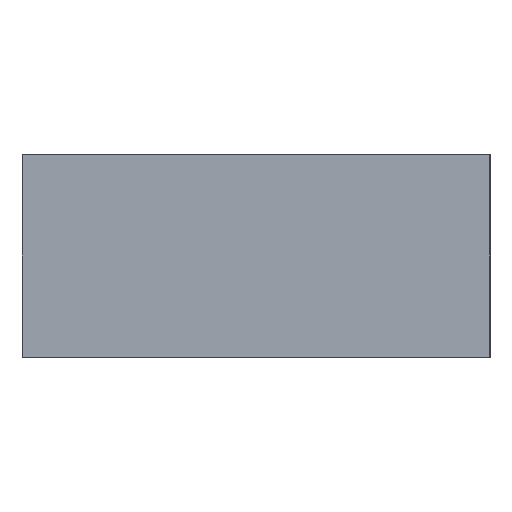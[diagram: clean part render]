
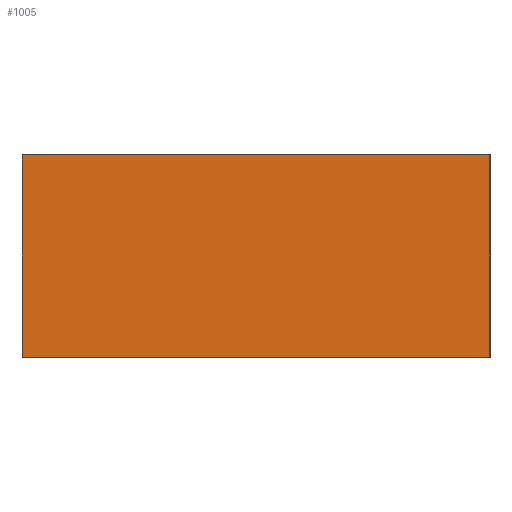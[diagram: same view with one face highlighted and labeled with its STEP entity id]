
A CAD part, front view. The second image highlights one B-rep face of the part: STEP entity #1005.
In plain terms, the highlighted planar face has unit normal (0, -1, 0).
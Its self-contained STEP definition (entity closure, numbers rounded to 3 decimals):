
#949=CARTESIAN_POINT('',(300.0,0.0,65.0));
#950=VERTEX_POINT('',#949);
#958=CARTESIAN_POINT('',(0.0,0.0,65.0));
#959=VERTEX_POINT('',#958);
#966=CARTESIAN_POINT('',(0.0,0.0,65.0));
#967=DIRECTION('',(1.0,0.0,0.0));
#968=VECTOR('',#967,300.0);
#969=LINE('',#966,#968);
#970=EDGE_CURVE('',#959,#950,#969,.T.);
#975=CARTESIAN_POINT('',(0.0,0.0,-65.0));
#976=DIRECTION('',(0.0,-1.0,0.0));
#977=DIRECTION('',(0.0,0.0,-1.0));
#978=AXIS2_PLACEMENT_3D('',#975,#976,#977);
#979=PLANE('',#978);
#980=CARTESIAN_POINT('',(300.0,0.0,-65.0));
#981=VERTEX_POINT('',#980);
#982=CARTESIAN_POINT('',(300.0,0.0,-65.0));
#983=DIRECTION('',(0.0,0.0,1.0));
#984=VECTOR('',#983,130.0);
#985=LINE('',#982,#984);
#986=EDGE_CURVE('',#981,#950,#985,.T.);
#987=ORIENTED_EDGE('',*,*,#986,.T.);
#988=ORIENTED_EDGE('',*,*,#970,.F.);
#989=CARTESIAN_POINT('',(0.0,0.0,-65.0));
#990=VERTEX_POINT('',#989);
#991=CARTESIAN_POINT('',(0.0,0.0,65.0));
#992=DIRECTION('',(0.0,0.0,-1.0));
#993=VECTOR('',#992,130.0);
#994=LINE('',#991,#993);
#995=EDGE_CURVE('',#959,#990,#994,.T.);
#996=ORIENTED_EDGE('',*,*,#995,.T.);
#997=CARTESIAN_POINT('',(0.0,0.0,-65.0));
#998=DIRECTION('',(1.0,0.0,0.0));
#999=VECTOR('',#998,300.0);
#1000=LINE('',#997,#999);
#1001=EDGE_CURVE('',#990,#981,#1000,.T.);
#1002=ORIENTED_EDGE('',*,*,#1001,.T.);
#1003=EDGE_LOOP('',(#987,#988,#996,#1002));
#1004=FACE_OUTER_BOUND('',#1003,.T.);
#1005=ADVANCED_FACE('',(#1004),#979,.T.);
